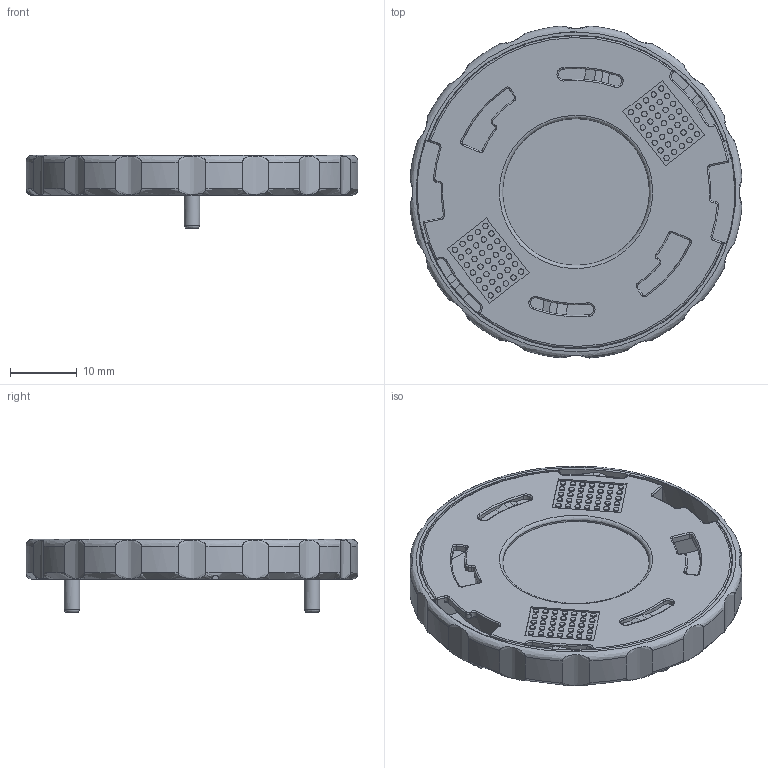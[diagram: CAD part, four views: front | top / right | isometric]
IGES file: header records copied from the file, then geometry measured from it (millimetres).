
Start section: C
Global section: file name: 023-700-03.igs; native system: By Siemens PLM Incorporated; preprocessor: XPlus GENERIC/IGES 23.0.61; author: Author; organization: Title; date: 20240422.084640; units: millimetre
Bounding box: 49.83 x 49.83 x 11 mm (x, y, z)
Volume: 5787.4 mm3; surface area: 11228.3 mm2
Topology: 2 solids, 2 shells, 1331 faces, 3548 edges, 2264 vertices
Faces by surface type: bspline 1331
